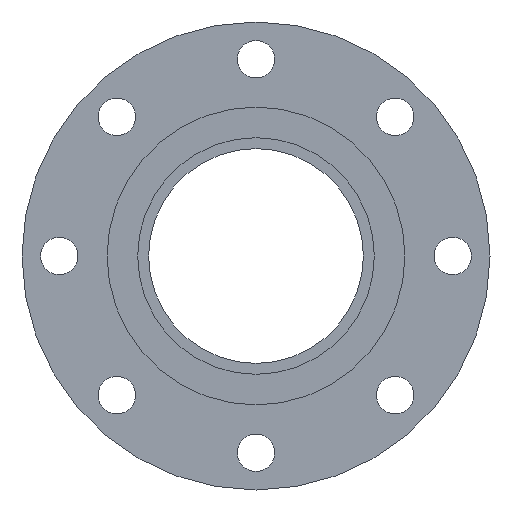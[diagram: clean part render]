
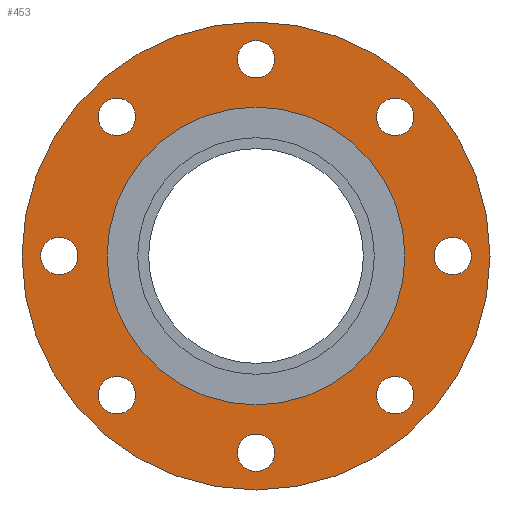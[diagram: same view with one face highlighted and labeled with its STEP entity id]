
A CAD part, left-side view. The second image highlights one B-rep face of the part: STEP entity #453.
In plain terms, the highlighted planar face has unit normal (-1, 0, 0).
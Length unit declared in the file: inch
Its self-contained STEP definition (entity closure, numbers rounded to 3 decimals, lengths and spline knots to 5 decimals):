
#14=FACE_BOUND('',#76,.T.);
#15=FACE_BOUND('',#77,.T.);
#16=FACE_BOUND('',#78,.T.);
#17=FACE_BOUND('',#79,.T.);
#18=FACE_BOUND('',#80,.T.);
#19=FACE_BOUND('',#81,.T.);
#20=FACE_BOUND('',#82,.T.);
#21=FACE_BOUND('',#83,.T.);
#22=FACE_BOUND('',#84,.T.);
#37=PLANE('',#515);
#53=FACE_OUTER_BOUND('',#75,.T.);
#75=EDGE_LOOP('',(#326,#327));
#76=EDGE_LOOP('',(#328));
#77=EDGE_LOOP('',(#329));
#78=EDGE_LOOP('',(#330));
#79=EDGE_LOOP('',(#331));
#80=EDGE_LOOP('',(#332));
#81=EDGE_LOOP('',(#333));
#82=EDGE_LOOP('',(#334));
#83=EDGE_LOOP('',(#335));
#84=EDGE_LOOP('',(#336,#337));
#142=CIRCLE('',#488,0.44);
#144=CIRCLE('',#491,0.44);
#146=CIRCLE('',#494,0.44);
#148=CIRCLE('',#497,0.44);
#150=CIRCLE('',#500,0.44);
#152=CIRCLE('',#503,0.44);
#154=CIRCLE('',#506,0.44);
#156=CIRCLE('',#509,0.44);
#157=CIRCLE('',#511,5.5);
#158=CIRCLE('',#512,5.5);
#161=CIRCLE('',#516,3.5);
#162=CIRCLE('',#517,3.5);
#186=VERTEX_POINT('',#705);
#188=VERTEX_POINT('',#711);
#190=VERTEX_POINT('',#717);
#192=VERTEX_POINT('',#723);
#194=VERTEX_POINT('',#729);
#196=VERTEX_POINT('',#735);
#198=VERTEX_POINT('',#741);
#200=VERTEX_POINT('',#747);
#201=VERTEX_POINT('',#751);
#202=VERTEX_POINT('',#752);
#205=VERTEX_POINT('',#761);
#206=VERTEX_POINT('',#762);
#231=EDGE_CURVE('',#186,#186,#142,.T.);
#234=EDGE_CURVE('',#188,#188,#144,.T.);
#237=EDGE_CURVE('',#190,#190,#146,.T.);
#240=EDGE_CURVE('',#192,#192,#148,.T.);
#243=EDGE_CURVE('',#194,#194,#150,.T.);
#246=EDGE_CURVE('',#196,#196,#152,.T.);
#249=EDGE_CURVE('',#198,#198,#154,.T.);
#252=EDGE_CURVE('',#200,#200,#156,.T.);
#253=EDGE_CURVE('',#201,#202,#157,.T.);
#254=EDGE_CURVE('',#202,#201,#158,.T.);
#258=EDGE_CURVE('',#205,#206,#161,.T.);
#259=EDGE_CURVE('',#206,#205,#162,.T.);
#326=ORIENTED_EDGE('',*,*,#253,.T.);
#327=ORIENTED_EDGE('',*,*,#254,.T.);
#328=ORIENTED_EDGE('',*,*,#231,.T.);
#329=ORIENTED_EDGE('',*,*,#234,.T.);
#330=ORIENTED_EDGE('',*,*,#237,.T.);
#331=ORIENTED_EDGE('',*,*,#240,.T.);
#332=ORIENTED_EDGE('',*,*,#243,.T.);
#333=ORIENTED_EDGE('',*,*,#246,.T.);
#334=ORIENTED_EDGE('',*,*,#249,.T.);
#335=ORIENTED_EDGE('',*,*,#252,.T.);
#336=ORIENTED_EDGE('',*,*,#258,.F.);
#337=ORIENTED_EDGE('',*,*,#259,.F.);
#453=ADVANCED_FACE('',(#53,#14,#15,#16,#17,#18,#19,#20,#21,#22),#37,.T.);
#488=AXIS2_PLACEMENT_3D('',#707,#559,#560);
#491=AXIS2_PLACEMENT_3D('',#713,#566,#567);
#494=AXIS2_PLACEMENT_3D('',#719,#573,#574);
#497=AXIS2_PLACEMENT_3D('',#725,#580,#581);
#500=AXIS2_PLACEMENT_3D('',#731,#587,#588);
#503=AXIS2_PLACEMENT_3D('',#737,#594,#595);
#506=AXIS2_PLACEMENT_3D('',#743,#601,#602);
#509=AXIS2_PLACEMENT_3D('',#749,#608,#609);
#511=AXIS2_PLACEMENT_3D('',#753,#612,#613);
#512=AXIS2_PLACEMENT_3D('',#754,#614,#615);
#515=AXIS2_PLACEMENT_3D('',#760,#621,#622);
#516=AXIS2_PLACEMENT_3D('',#763,#623,#624);
#517=AXIS2_PLACEMENT_3D('',#764,#625,#626);
#559=DIRECTION('center_axis',(1.,0.,0.));
#560=DIRECTION('ref_axis',(0.,-0.707,0.707));
#566=DIRECTION('center_axis',(1.,0.,0.));
#567=DIRECTION('ref_axis',(0.,-1.,0.));
#573=DIRECTION('center_axis',(1.,0.,0.));
#574=DIRECTION('ref_axis',(0.,-0.707,-0.707));
#580=DIRECTION('center_axis',(1.,0.,0.));
#581=DIRECTION('ref_axis',(0.,0.,-1.));
#587=DIRECTION('center_axis',(1.,0.,0.));
#588=DIRECTION('ref_axis',(0.,0.707,-0.707));
#594=DIRECTION('center_axis',(1.,0.,0.));
#595=DIRECTION('ref_axis',(0.,1.,0.));
#601=DIRECTION('center_axis',(1.,0.,0.));
#602=DIRECTION('ref_axis',(0.,0.707,0.707));
#608=DIRECTION('center_axis',(1.,0.,0.));
#609=DIRECTION('ref_axis',(0.,0.,1.));
#612=DIRECTION('center_axis',(-1.,0.,0.));
#613=DIRECTION('ref_axis',(0.,0.,1.));
#614=DIRECTION('center_axis',(-1.,0.,0.));
#615=DIRECTION('ref_axis',(0.,0.,1.));
#621=DIRECTION('center_axis',(-1.,0.,0.));
#622=DIRECTION('ref_axis',(0.,0.,1.));
#623=DIRECTION('center_axis',(-1.,0.,0.));
#624=DIRECTION('ref_axis',(0.,0.,1.));
#625=DIRECTION('center_axis',(-1.,0.,0.));
#626=DIRECTION('ref_axis',(0.,0.,1.));
#705=CARTESIAN_POINT('',(-1.38,3.5815,-3.5815));
#707=CARTESIAN_POINT('Origin',(-1.38,3.27037,-3.27037));
#711=CARTESIAN_POINT('',(-1.38,5.065,0.));
#713=CARTESIAN_POINT('Origin',(-1.38,4.625,0.));
#717=CARTESIAN_POINT('',(-1.38,3.5815,3.5815));
#719=CARTESIAN_POINT('Origin',(-1.38,3.27037,3.27037));
#723=CARTESIAN_POINT('',(-1.38,0.,5.065));
#725=CARTESIAN_POINT('Origin',(-1.38,0.,4.625));
#729=CARTESIAN_POINT('',(-1.38,-3.5815,3.5815));
#731=CARTESIAN_POINT('Origin',(-1.38,-3.27037,3.27037));
#735=CARTESIAN_POINT('',(-1.38,-5.065,0.));
#737=CARTESIAN_POINT('Origin',(-1.38,-4.625,0.));
#741=CARTESIAN_POINT('',(-1.38,-3.5815,-3.5815));
#743=CARTESIAN_POINT('Origin',(-1.38,-3.27037,-3.27037));
#747=CARTESIAN_POINT('',(-1.38,0.,-5.065));
#749=CARTESIAN_POINT('Origin',(-1.38,0.,-4.625));
#751=CARTESIAN_POINT('',(-1.38,0.,5.5));
#752=CARTESIAN_POINT('',(-1.38,0.,-5.5));
#753=CARTESIAN_POINT('Origin',(-1.38,0.,0.));
#754=CARTESIAN_POINT('Origin',(-1.38,0.,0.));
#760=CARTESIAN_POINT('Origin',(-1.38,0.,4.5));
#761=CARTESIAN_POINT('',(-1.38,0.,3.5));
#762=CARTESIAN_POINT('',(-1.38,0.,-3.5));
#763=CARTESIAN_POINT('Origin',(-1.38,0.,0.));
#764=CARTESIAN_POINT('Origin',(-1.38,0.,0.));
